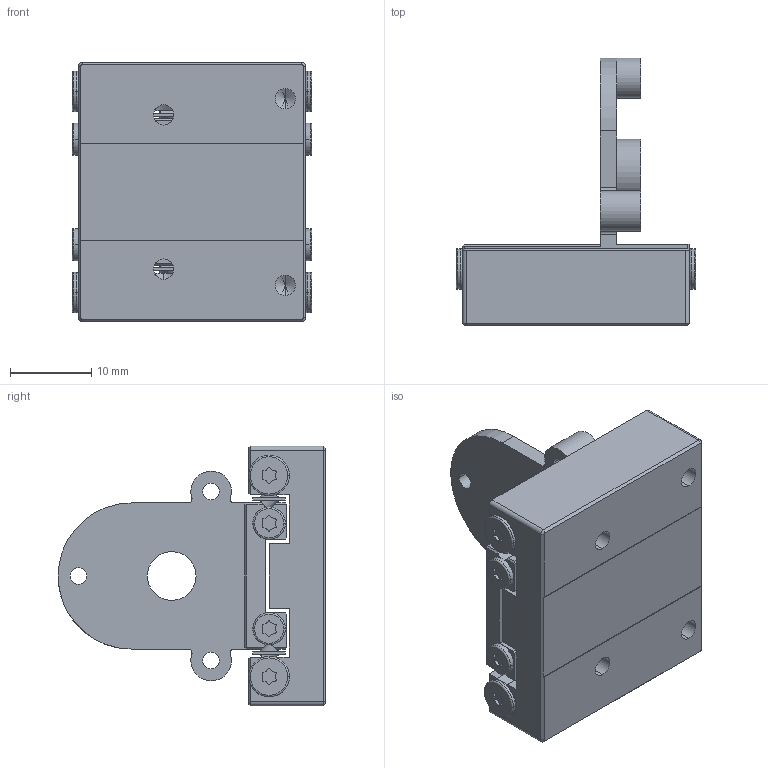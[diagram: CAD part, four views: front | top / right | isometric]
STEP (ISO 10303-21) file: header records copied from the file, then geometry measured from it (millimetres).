
FILE_DESCRIPTION (( 'STEP AP214' ), '1' );
FILE_NAME ('瑤毞揤萇鎮湛-2.STEP', '2024-02-23T06:11:14', ( 'Sky123.Org' ), ( 'Sky123.Org' ), 'SwSTEP 2.0', 'SolidWorks 2016', '' );
FILE_SCHEMA (( 'AUTOMOTIVE_DESIGN' ));
Length unit declared in the file: millimetre
Products named in the file (1): 瑤毞揤萇鎮湛-2
Bounding box: 29.5 x 33 x 32 mm (x, y, z)
Volume: 9143.7 mm3; surface area: 7514.3 mm2
Topology: 26 solids, 26 shells, 500 faces, 1214 edges, 771 vertices
Faces by surface type: cylinder 231, plane 206, cone 39, torus 24
Entity records: 20453 total; most frequent: DIRECTION 2728, CARTESIAN_POINT 2493, ORIENTED_EDGE 2388, EDGE_CURVE 1194, AXIS2_PLACEMENT_3D 1036, VERTEX_POINT 771, VECTOR 656, LINE 656
